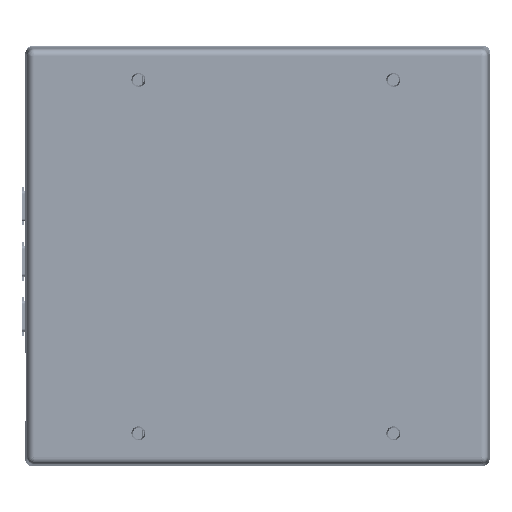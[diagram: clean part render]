
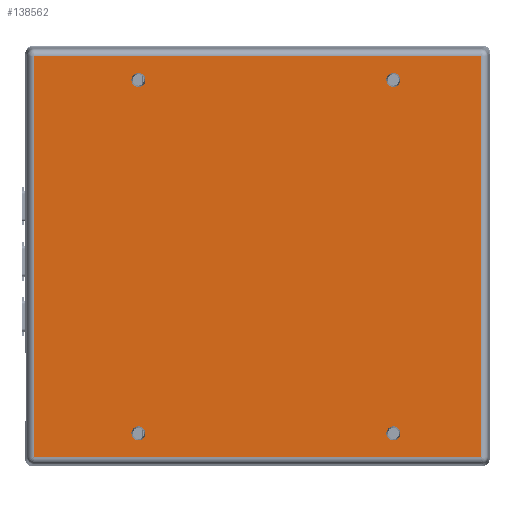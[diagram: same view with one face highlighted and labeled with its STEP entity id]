
A CAD part, front view. The second image highlights one B-rep face of the part: STEP entity #138562.
In plain terms, the highlighted planar face has unit normal (0, -1, 0) as drawn and (0, 0, -1) by its records, which use the part's own axes.
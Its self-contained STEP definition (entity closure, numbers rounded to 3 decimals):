
#58560=CIRCLE('',#143251,0.131);
#58562=CIRCLE('',#143254,0.131);
#58564=CIRCLE('',#143257,0.131);
#58566=CIRCLE('',#143260,0.131);
#63926=VERTEX_POINT('',#175225);
#63928=VERTEX_POINT('',#175230);
#63930=VERTEX_POINT('',#175235);
#63932=VERTEX_POINT('',#175240);
#63933=VERTEX_POINT('',#175243);
#63934=VERTEX_POINT('',#175244);
#63935=VERTEX_POINT('',#175246);
#63936=VERTEX_POINT('',#175248);
#72375=VECTOR('',#152110,1.);
#72376=VECTOR('',#152111,1.);
#72377=VECTOR('',#152112,1.);
#72378=VECTOR('',#152113,1.);
#81307=LINE('',#175242,#72375);
#81308=LINE('',#175245,#72376);
#81309=LINE('',#175247,#72377);
#81310=LINE('',#175249,#72378);
#90413=EDGE_CURVE('',#63926,#63926,#58560,.F.);
#90415=EDGE_CURVE('',#63928,#63928,#58562,.F.);
#90417=EDGE_CURVE('',#63930,#63930,#58564,.F.);
#90419=EDGE_CURVE('',#63932,#63932,#58566,.F.);
#90420=EDGE_CURVE('',#63933,#63934,#81307,.T.);
#90421=EDGE_CURVE('',#63935,#63933,#81308,.T.);
#90422=EDGE_CURVE('',#63936,#63935,#81309,.T.);
#90423=EDGE_CURVE('',#63934,#63936,#81310,.T.);
#103863=ORIENTED_EDGE('',*,*,#90420,.F.);
#103864=ORIENTED_EDGE('',*,*,#90421,.F.);
#103865=ORIENTED_EDGE('',*,*,#90422,.F.);
#103866=ORIENTED_EDGE('',*,*,#90423,.F.);
#103867=ORIENTED_EDGE('',*,*,#90419,.T.);
#103868=ORIENTED_EDGE('',*,*,#90417,.T.);
#103869=ORIENTED_EDGE('',*,*,#90415,.T.);
#103870=ORIENTED_EDGE('',*,*,#90413,.T.);
#128182=EDGE_LOOP('',(#103863,#103864,#103865,#103866));
#128183=EDGE_LOOP('',(#103867));
#128184=EDGE_LOOP('',(#103868));
#128185=EDGE_LOOP('',(#103869));
#128186=EDGE_LOOP('',(#103870));
#133382=FACE_BOUND('',#128182,.T.);
#133383=FACE_BOUND('',#128183,.T.);
#133384=FACE_BOUND('',#128184,.T.);
#133385=FACE_BOUND('',#128185,.T.);
#133386=FACE_BOUND('',#128186,.T.);
#138562=ADVANCED_FACE('',(#133382,#133383,#133384,#133385,#133386),#220598,
 .F.);
#143251=AXIS2_PLACEMENT_3D('',#175224,#152089,#152090);
#143254=AXIS2_PLACEMENT_3D('',#175229,#152095,#152096);
#143257=AXIS2_PLACEMENT_3D('',#175234,#152101,#152102);
#143260=AXIS2_PLACEMENT_3D('',#175239,#152107,#152108);
#143261=AXIS2_PLACEMENT_3D('',#175241,#152109,$);
#152089=DIRECTION('',(0.,0.,-1.));
#152090=DIRECTION('',(-0.131,0.,0.));
#152095=DIRECTION('',(0.,0.,-1.));
#152096=DIRECTION('',(-0.131,0.,0.));
#152101=DIRECTION('',(0.,0.,-1.));
#152102=DIRECTION('',(-0.131,0.,0.));
#152107=DIRECTION('',(0.,0.,-1.));
#152108=DIRECTION('',(-0.131,0.,0.));
#152109=DIRECTION('',(0.,0.,1.));
#152110=DIRECTION('',(-1.,0.,0.));
#152111=DIRECTION('',(0.,1.,0.));
#152112=DIRECTION('',(1.,0.,0.));
#152113=DIRECTION('',(0.,-1.,0.));
#175224=CARTESIAN_POINT('',(3.302,2.223,-0.003));
#175225=CARTESIAN_POINT('',(3.433,2.223,-0.003));
#175229=CARTESIAN_POINT('',(3.302,-2.54,-0.003));
#175230=CARTESIAN_POINT('',(3.433,-2.54,-0.003));
#175234=CARTESIAN_POINT('',(-3.302,-2.54,-0.003));
#175235=CARTESIAN_POINT('',(-3.171,-2.54,-0.003));
#175239=CARTESIAN_POINT('',(-3.302,2.223,-0.003));
#175240=CARTESIAN_POINT('',(-3.171,2.223,-0.003));
#175241=CARTESIAN_POINT('',(0.,0.,
-0.003));
#175242=CARTESIAN_POINT('',(0.,4.178,-0.003));
#175243=CARTESIAN_POINT('',(3.752,4.178,-0.003));
#175244=CARTESIAN_POINT('',(-3.752,4.178,-0.003));
#175245=CARTESIAN_POINT('',(3.752,0.,-0.003));
#175246=CARTESIAN_POINT('',(3.752,-4.178,-0.003));
#175247=CARTESIAN_POINT('',(0.,-4.178,-0.003));
#175248=CARTESIAN_POINT('',(-3.752,-4.178,-0.003));
#175249=CARTESIAN_POINT('',(-3.752,0.,-0.003));
#220598=PLANE('',#143261);
